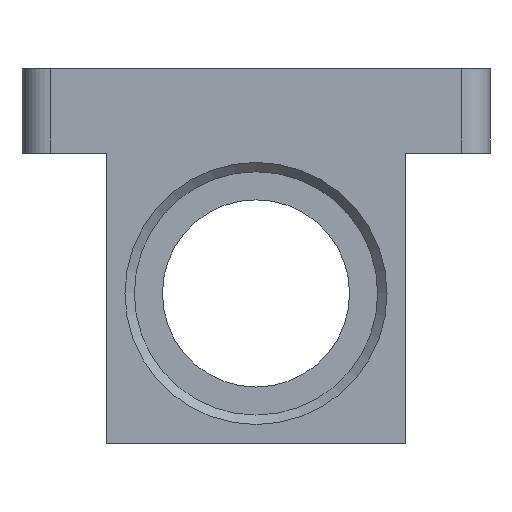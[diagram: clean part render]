
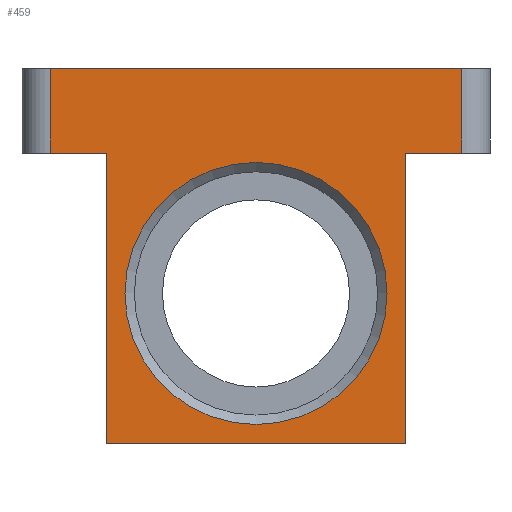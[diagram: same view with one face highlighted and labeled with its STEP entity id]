
A CAD part, left-side view. The second image highlights one B-rep face of the part: STEP entity #459.
In plain terms, the highlighted planar face has unit normal (-1, 0, 0).
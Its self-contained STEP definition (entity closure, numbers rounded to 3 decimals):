
#182=CARTESIAN_POINT('',(0.5,22.,15.));
#183=VERTEX_POINT('',#182);
#191=CARTESIAN_POINT('',(0.5,22.,24.));
#192=VERTEX_POINT('',#191);
#193=CARTESIAN_POINT('',(0.5,22.,15.));
#194=DIRECTION('',(0.,0.,1.));
#195=VECTOR('',#194,9.);
#196=LINE('',#193,#195);
#197=EDGE_CURVE('',#183,#192,#196,.T.);
#214=CARTESIAN_POINT('',(0.5,-22.,24.));
#215=VERTEX_POINT('',#214);
#216=CARTESIAN_POINT('',(0.5,-22.,15.));
#217=VERTEX_POINT('',#216);
#218=CARTESIAN_POINT('',(0.5,-22.,24.));
#219=DIRECTION('',(0.,0.,-1.));
#220=VECTOR('',#219,9.);
#221=LINE('',#218,#220);
#222=EDGE_CURVE('',#215,#217,#221,.T.);
#247=CARTESIAN_POINT('',(0.5,-16.,-16.));
#248=VERTEX_POINT('',#247);
#265=CARTESIAN_POINT('',(0.5,-16.,15.));
#266=VERTEX_POINT('',#265);
#273=CARTESIAN_POINT('',(0.5,-16.,15.));
#274=DIRECTION('',(0.,0.,-1.));
#275=VECTOR('',#274,31.);
#276=LINE('',#273,#275);
#277=EDGE_CURVE('',#266,#248,#276,.T.);
#376=CARTESIAN_POINT('',(0.5,16.,-16.));
#377=VERTEX_POINT('',#376);
#378=CARTESIAN_POINT('',(0.5,-16.,-16.));
#379=DIRECTION('',(0.,1.,0.));
#380=VECTOR('',#379,32.);
#381=LINE('',#378,#380);
#382=EDGE_CURVE('',#248,#377,#381,.T.);
#400=CARTESIAN_POINT('',(0.5,16.,15.));
#401=VERTEX_POINT('',#400);
#402=CARTESIAN_POINT('',(0.5,16.,-16.));
#403=DIRECTION('',(0.,0.,1.));
#404=VECTOR('',#403,31.);
#405=LINE('',#402,#404);
#406=EDGE_CURVE('',#377,#401,#405,.T.);
#418=CARTESIAN_POINT('',(0.5,4.14,0.));
#419=DIRECTION('',(0.,-1.,0.));
#420=DIRECTION('',(-1.,0.,0.));
#421=AXIS2_PLACEMENT_3D('',#418,#420,#419);
#422=PLANE('',#421);
#423=CARTESIAN_POINT('',(0.5,-16.,15.));
#424=DIRECTION('',(0.,-1.,0.));
#425=VECTOR('',#424,6.);
#426=LINE('',#423,#425);
#427=EDGE_CURVE('',#266,#217,#426,.T.);
#428=ORIENTED_EDGE('E43',*,*,#427,.T.);
#429=ORIENTED_EDGE('E43',*,*,#222,.F.);
#430=CARTESIAN_POINT('',(0.5,-22.,24.));
#431=DIRECTION('',(0.,1.,0.));
#432=VECTOR('',#431,44.);
#433=LINE('',#430,#432);
#434=EDGE_CURVE('',#215,#192,#433,.T.);
#435=ORIENTED_EDGE('E44',*,*,#434,.T.);
#436=ORIENTED_EDGE('E44',*,*,#197,.F.);
#437=CARTESIAN_POINT('',(0.5,22.,15.));
#438=DIRECTION('',(0.,-1.,0.));
#439=VECTOR('',#438,6.);
#440=LINE('',#437,#439);
#441=EDGE_CURVE('',#183,#401,#440,.T.);
#442=ORIENTED_EDGE('E45',*,*,#441,.T.);
#443=ORIENTED_EDGE('E45',*,*,#406,.F.);
#444=ORIENTED_EDGE('E45',*,*,#382,.F.);
#445=ORIENTED_EDGE('E45',*,*,#277,.F.);
#446=EDGE_LOOP('',(#428,#429,#435,#436,#442,#443,#444,#445));
#447=FACE_OUTER_BOUND('',#446,.T.);
#448=CARTESIAN_POINT('',(0.5,-14.,0.));
#449=VERTEX_POINT('',#448);
#450=CARTESIAN_POINT('',(0.5,0.,0.));
#451=DIRECTION('',(0.,-1.,0.));
#452=DIRECTION('',(-1.,0.,0.));
#453=AXIS2_PLACEMENT_3D('',#450,#452,#451);
#454=CIRCLE('',#453,14.);
#455=EDGE_CURVE('',#449,#449,#454,.T.);
#456=ORIENTED_EDGE('E105',*,*,#455,.F.);
#457=EDGE_LOOP('',(#456));
#458=FACE_BOUND('',#457,.T.);
#459=ADVANCED_FACE('F14',(#447,#458),#422,.T.);
